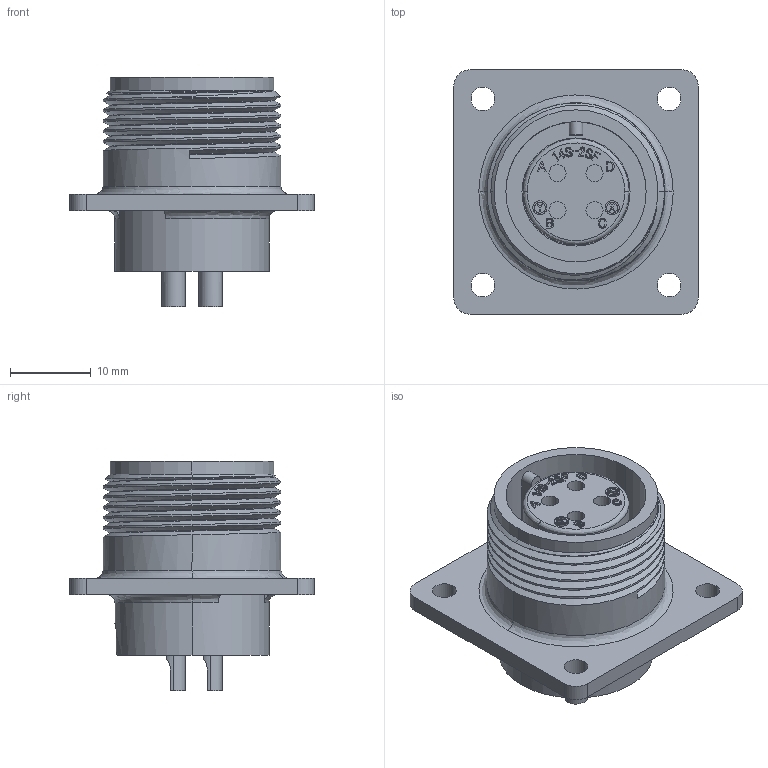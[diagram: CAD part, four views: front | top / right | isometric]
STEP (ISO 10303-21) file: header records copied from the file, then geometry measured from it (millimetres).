
FILE_DESCRIPTION (( 'STEP AP203' ), '1' );
FILE_NAME ('DMS3102A14S-2S.STEP', '2017-03-02T06:07:49', ( '' ), ( '' ), 'SwSTEP 2.0', 'SolidWorks 2015', '' );
FILE_SCHEMA (( 'CONFIG_CONTROL_DESIGN' ));
Length unit declared in the file: millimetre
Products named in the file (1): DMS3102A14S-2S
Bounding box: 30.2 x 30.2 x 28.37 mm (x, y, z)
Volume: 7226.5 mm3; surface area: 6675.1 mm2
Topology: 1 solids, 2 shells, 781 faces, 2135 edges, 1409 vertices
Faces by surface type: bspline 317, plane 312, cylinder 142, cone 10
Entity records: 34500 total; most frequent: CARTESIAN_POINT 16936, ORIENTED_EDGE 4266, DIRECTION 2573, EDGE_CURVE 2133, VERTEX_POINT 1409, LINE 1105, VECTOR 1105, EDGE_LOOP 844
